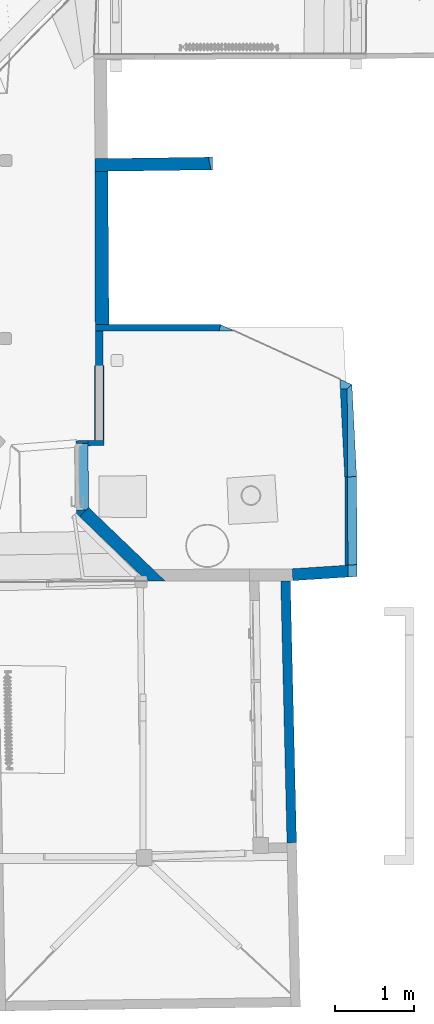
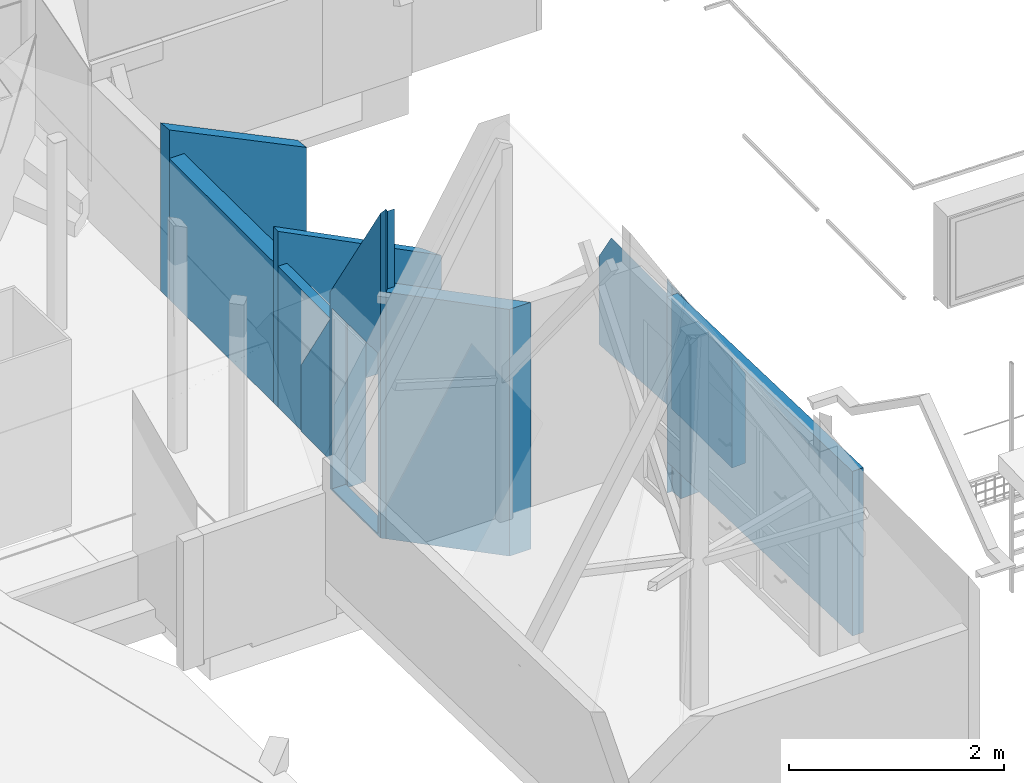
# One storey, part 11 of 39: 11 walls, 1 opening.
"""IFC2X3 building model written with IfcOpenShell, lengths in centimetres."""

from ifc_helpers import new_model, entity, si_unit, converted_unit, direction, frame, origin, origin_with_axes, origin_2d_with_axis, place, context, subcontext, project, spatial, polyline, rectangle, outline, extrude, clip, bounded_halfspace, shape, material, layer, layer_set, layer_usage, type_object, element, save


model = new_model("IFC2X3")

# Units and contexts
model_context = context("Model", 3, precision=0.0001, world=origin(), true_north=direction((0.225632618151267, 0.974212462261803, 0.0)))
body_context = subcontext(model_context, "Body", "Model", "MODEL_VIEW")
footprint_context = subcontext(model_context, "FootPrint", "Model", "MODEL_VIEW")
profile_context = subcontext(model_context, "Profile", "Model", "MODEL_VIEW")
ifc_project = project(units=[si_unit("LENGTHUNIT", "METRE", prefix="CENTI"), si_unit("AREAUNIT", "SQUARE_METRE", prefix="CENTI"), si_unit("VOLUMEUNIT", "CUBIC_METRE", prefix="CENTI"), converted_unit("PLANEANGLEUNIT", "DEGREE", entity("IfcRatioMeasure", 0.0174532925), si_unit("PLANEANGLEUNIT", "RADIAN"), dimensions=[0, 0, 0, 0, 0, 0, 0])], contexts=[model_context])

# Site, building, storey
site_placement = place(None, origin_with_axes())
site = spatial("IfcSite", under=ifc_project, at=site_placement, Name="Default Site", CompositionType="ELEMENT")
building_placement = place(site_placement, origin_with_axes())
building = spatial("IfcBuilding", under=site, at=building_placement, Name="Default Building", CompositionType="ELEMENT")
storey_placement = place(building_placement, frame((0.0, 0.0, 1088.91037418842), z_axis=(0.0, 0.0, 1.0), x_axis=(1.0, 0.0, 0.0)))
storey = spatial("IfcBuildingStorey", under=building, at=storey_placement, Name="Mezzanine", CompositionType="ELEMENT", Elevation=1088.91037418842)

# Wall, opening
ifc_material = material(Name="<aucun>")
ifc_layer_1 = layer(ifc_material, 15.0)
ifc_layer_set_1 = layer_set([ifc_layer_1], Name="default")
ifc_layer_usage_1 = layer_usage(ifc_layer_set_1, "AXIS2", "POSITIVE", -7.5)
wall_type_1 = type_object("IfcWallType", Name="default 150", PredefinedType="NOTDEFINED", material=ifc_layer_set_1)
wall_1_placement = place(storey_placement, frame((490.947921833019, -267.45127101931, 1.4210854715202e-12), z_axis=(0.0, 0.0, 1.0), x_axis=(-0.00747819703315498, 0.999972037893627, 0.0)))
wall_1 = element("IfcWallStandardCase", 1, at=wall_1_placement, inside=storey, type_object=wall_type_1, material=ifc_layer_usage_1, Name="Enveloppe 196749", context=body_context, shape_type="Clipping", body=[
    clip(clip(clip(clip(clip(clip(extrude(outline(polyline([(92.1734913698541, 7.50000000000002), (-0.000856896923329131, 7.50000000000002), (-3.73848226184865, 3.6603239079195), (0.0, 0.0212028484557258), (8.88178419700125e-14, -7.49999999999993), (92.2276193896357, -7.49999999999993), (92.1734913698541, 7.50000000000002)])), frame((0.0, 0.0, -1.77635683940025e-13), z_axis=(0.0, 0.0, 1.0), x_axis=(1.0, 0.0, 0.0)), (0.0, 0.0, 1.0), 373.935138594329), bounded_halfspace(frame((7.72655896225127, -7.50000000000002, 279.702416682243), z_axis=(0.0, 0.0, 1.0), x_axis=(-1.0, -2.18141477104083e-15, 0.0)), True, frame((7.72655896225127, -7.50000000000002, 279.702416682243), z_axis=(0.0, 0.0, 1.0), x_axis=(1.0, 0.0, 0.0)), polyline([(-7.72655896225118, 1.77635683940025e-13), (-7.72655896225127, 7.52120284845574), (0.0, 0.0), (-7.72655896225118, 1.77635683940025e-13)]))), bounded_halfspace(frame((-3.7384822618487, 3.6603239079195, 373.935138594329), z_axis=(-0.843224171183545, 0.00783678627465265, -0.537504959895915), x_axis=(0.473867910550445, -0.461273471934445, -0.750117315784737)), True, frame((-3.7384822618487, 3.6603239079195, 373.935138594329), z_axis=(0.0, 0.0, 1.0), x_axis=(1.0, 0.0, 0.0)), polyline([(4.44089209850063e-14, -8.88178419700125e-14), (3.7384822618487, -3.63912105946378), (3.73762536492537, 3.83967609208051), (4.44089209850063e-14, -8.88178419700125e-14)]))), bounded_halfspace(frame((85.7275770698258, 7.50000000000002, 233.639032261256), z_axis=(-0.843224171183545, 0.00783678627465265, -0.537504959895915), x_axis=(-0.53752146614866, -1.346145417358e-15, 0.843250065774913)), True, frame((85.7275770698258, 7.50000000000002, 233.639032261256), z_axis=(0.0, 0.0, 1.0), x_axis=(1.0, 0.0, 0.0)), polyline([(4.44089209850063e-14, -14.9999999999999), (6.5000423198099, -14.9999999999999), (6.44591430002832, 0.0), (4.44089209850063e-14, 0.0), (4.44089209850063e-14, -14.9999999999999)]))), bounded_halfspace(frame((-0.00085689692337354, 7.50000000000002, 368.12762878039), z_axis=(-0.843224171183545, 0.00783678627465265, -0.537504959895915), x_axis=(0.00608181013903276, 0.999968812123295, 0.00503848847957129)), True, frame((-0.00085689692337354, 7.50000000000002, 368.12762878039), z_axis=(0.0, 0.0, 1.0), x_axis=(1.0, 0.0, 0.0)), polyline([(0.00085689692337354, -7.47879715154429), (7.72741585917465, -15.0), (39.4986094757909, -14.9999999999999), (39.5898394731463, 8.88178419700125e-14), (4.44089209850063e-14, 0.0), (0.00085689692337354, -7.47879715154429)]))), bounded_halfspace(frame((39.5889825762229, 7.50000000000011, 306.020091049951), z_axis=(-0.843224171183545, 0.00783678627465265, -0.537504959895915), x_axis=(0.537521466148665, 5.14345510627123e-16, -0.84325006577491)), True, frame((39.5889825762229, 7.50000000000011, 306.020091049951), z_axis=(0.0, 0.0, 1.0), x_axis=(1.0, 0.0, 0.0)), polyline([(-0.0912299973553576, -14.9999999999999), (46.1385944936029, -15.0), (46.1385944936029, -8.88178419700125e-14), (4.44089209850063e-14, 0.0), (-0.0912299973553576, -14.9999999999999)]))), bounded_halfspace(frame((-4.44089209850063e-14, 0.0212028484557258, 368.01724414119), z_axis=(-0.843224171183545, 0.00783678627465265, -0.537504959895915), x_axis=(9.74220704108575e-15, -0.999893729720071, -0.0145783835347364)), True, frame((-4.44089209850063e-14, 0.0212028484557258, 368.01724414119), z_axis=(0.0, 0.0, 1.0), x_axis=(1.0, 0.0, 0.0)), polyline([(1.33226762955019e-13, -7.52120284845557), (7.72655896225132, -7.52120284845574), (4.44089209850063e-14, 0.0), (1.33226762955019e-13, -7.52120284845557)]))),
])
opening_placement = place(wall_1_placement, frame((4.67017109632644, -1.13686837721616e-13, 1.99999999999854), z_axis=(0.0, 0.0, 1.0), x_axis=(1.0, -1.8995222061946e-16, 0.0)))
cartesian_point_1 = entity("IfcCartesianPoint", [0.0, 8.88178419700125e-14, 204.70321560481])
cartesian_point_2 = entity("IfcCartesianPoint", [84.1512658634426, 7.50000000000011])
element("IfcOpeningElement", 2, at=opening_placement, cuts=wall_1, Name="4294966372_11", ObjectType="Opening", shapes=[
    shape(body_context, "Body", "SweptSolid", [extrude(outline(polyline([(4.44089209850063e-14, 204.70321560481), (4.44089209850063e-14, -1.77635683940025e-13), (84.1512658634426, -1.77635683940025e-13), (84.1512658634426, 204.70321560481), (4.44089209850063e-14, 204.70321560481)])), frame((0.0, 17.5, 0.0), z_axis=(0.0, -1.0, 0.0), x_axis=(1.0, 0.0, 0.0)), (0.0, 0.0, 1.0), 35.0)]),
    shape(profile_context, "Profile", "GeometricCurveSet", [entity("IfcGeometricCurveSet", [entity("IfcPolyline", [cartesian_point_1, entity("IfcCartesianPoint", [0.0, 8.88178419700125e-14, -1.77635683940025e-13]), entity("IfcCartesianPoint", [84.1512658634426, 8.88178419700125e-14, -1.77635683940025e-13]), entity("IfcCartesianPoint", [84.1512658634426, 8.88178419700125e-14, 204.70321560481]), cartesian_point_1])])]),
    shape(footprint_context, "FootPrint", "GeometricCurveSet", [entity("IfcGeometricCurveSet", [entity("IfcPolyline", [cartesian_point_2, entity("IfcCartesianPoint", [4.44089209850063e-14, 7.50000000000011]), entity("IfcCartesianPoint", [4.44089209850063e-14, -7.49999999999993]), entity("IfcCartesianPoint", [84.1512658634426, -7.49999999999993]), cartesian_point_2])])]),
])

# Walls
ifc_layer_2 = layer(ifc_material, 16.0)
ifc_layer_set_2 = layer_set([ifc_layer_2], Name="default")
ifc_layer_usage_2 = layer_usage(ifc_layer_set_2, "AXIS2", "POSITIVE", -8.0)
wall_type_2 = type_object("IfcWallType", Name="default 160", PredefinedType="NOTDEFINED", material=ifc_layer_set_2)
wall_2_placement = place(storey_placement, frame((572.508717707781, -341.829993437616, 1.4210854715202e-12), z_axis=(0.0, 0.0, 1.0), x_axis=(-0.721761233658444, 0.692142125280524, 0.0)))
element("IfcWallStandardCase", 3, at=wall_2_placement, inside=storey, type_object=wall_type_2, material=ifc_layer_usage_2, Name="Enveloppe 196802", context=body_context, shape_type="SweptSolid", body=[
    extrude(outline(polyline([(110.363260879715, 8.0000000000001), (-7.57052887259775, 7.99999999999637), (-24.1921807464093, -8.00000000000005), (110.363260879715, -7.99999999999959), (110.363260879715, 8.0000000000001)])), frame((0.0, 0.0, -8.88178419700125e-13), z_axis=(0.0, 0.0, 1.0), x_axis=(1.0, 0.0, 0.0)), (0.0, 0.0, 1.0), 279.702416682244),
])
ifc_layer_3 = layer(ifc_material, 12.0)
ifc_layer_set_3 = layer_set([ifc_layer_3], Name="default")
ifc_layer_usage_3 = layer_usage(ifc_layer_set_3, "AXIS2", "POSITIVE", -6.0)
wall_type_3 = type_object("IfcWallType", Name="default 120", PredefinedType="NOTDEFINED", material=ifc_layer_set_3)
wall_3_placement = place(storey_placement, frame((755.420033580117, -689.414235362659, 48.0000000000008), z_axis=(0.0, 0.0, 1.0), x_axis=(-0.0238008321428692, 0.999716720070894, 0.0)))
element("IfcWallStandardCase", 4, at=wall_3_placement, inside=storey, type_object=wall_type_3, material=ifc_layer_usage_3, Name="Enveloppe 195761", context=body_context, shape_type="Clipping", body=[
    clip(extrude(rectangle(XDim=12.0, YDim=331.128133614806, at=origin_2d_with_axis()), frame((171.564066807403, -8.88178419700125e-14, -5.32907051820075e-13), z_axis=(0.0, 0.0, 1.0), x_axis=(0.0, -1.0, 0.0)), (0.0, 0.0, 1.0), 186.702416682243), bounded_halfspace(frame((337.128133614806, -6.00000000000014, 185.371625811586), z_axis=(0.0, 0.0, 1.0), x_axis=(-1.0, 3.58834489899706e-13, 0.0)), True, frame((337.128133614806, -6.00000000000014, 185.371625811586), z_axis=(0.0, 0.0, 1.0), x_axis=(1.0, 0.0, 0.0)), polyline([(-0.110865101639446, -8.88178419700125e-14), (-0.110865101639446, 6.94119999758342), (4.44089209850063e-14, 12.0000000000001), (4.44089209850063e-14, 0.0), (-0.110865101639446, -8.88178419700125e-14)]))),
])
ifc_layer_usage_4 = layer_usage(ifc_layer_set_1, "AXIS2", "POSITIVE", -7.5)
wall_type_4 = type_object("IfcWallType", Name="default 150", PredefinedType="NOTDEFINED", material=ifc_layer_set_1)
wall_4_placement = place(storey_placement, frame((830.122629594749, -336.708752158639, 1.06581410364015e-12), z_axis=(0.0, 0.0, 1.0), x_axis=(-0.00268760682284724, 0.999996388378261, 0.0)))
element("IfcWallStandardCase", 5, at=wall_4_placement, inside=storey, type_object=wall_type_4, material=ifc_layer_usage_4, Name="Enveloppe 197291", context=body_context, shape_type="Clipping", body=[
    clip(clip(extrude(outline(polyline([(115.473482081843, 7.50000000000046), (3.91954015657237, 7.50000000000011), (4.85611666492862, -7.50000000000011), (114.566152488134, -7.49999999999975), (116.191257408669, -7.42182860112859), (115.473482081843, 7.50000000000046)])), frame((0.0, 0.0, -5.32907051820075e-13), z_axis=(0.0, 0.0, 1.0), x_axis=(1.0, 0.0, 0.0)), (0.0, 0.0, 1.0), 125.905672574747), bounded_halfspace(frame((3.91954015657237, 7.50000000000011, 125.905672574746), z_axis=(-0.000806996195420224, 0.850801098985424, -0.525487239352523), x_axis=(0.999997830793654, -0.000322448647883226, -0.00205777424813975)), True, frame((3.91954015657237, 7.50000000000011, 125.905672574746), z_axis=(0.0, 0.0, 1.0), x_axis=(1.0, 0.0, 0.0)), polyline([(0.0, 1.77635683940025e-13), (0.441870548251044, -7.07689992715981), (51.2322007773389, -7.09327723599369), (51.225204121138, -5.99999999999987), (111.823901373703, -5.61218596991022), (111.55394192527, 3.5527136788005e-13), (0.0, 1.77635683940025e-13)]))), bounded_halfspace(frame((115.743441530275, 1.88781403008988, 116.647416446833), z_axis=(-0.000806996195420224, 0.850801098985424, -0.525487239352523), x_axis=(-0.0252682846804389, 0.525302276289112, 0.850540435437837)), True, frame((115.743441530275, 1.88781403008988, 116.647416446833), z_axis=(0.0, 0.0, 1.0), x_axis=(1.0, 0.0, 0.0)), polyline([(-111.382030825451, -1.46471395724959), (-110.887324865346, -9.38781403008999), (-1.17728904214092, -9.38781403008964), (0.447815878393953, -9.30964263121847), (4.44089209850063e-14, 0.0), (-60.5986972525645, -0.38781403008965), (-60.5917005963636, -1.48109126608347), (-111.382030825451, -1.46471395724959)]))),
])
ifc_layer_usage_5 = layer_usage(ifc_layer_set_1, "AXIS2", "POSITIVE", -7.5)
wall_5_placement = place(storey_placement, frame((829.741812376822, -220.878451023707, 1.06581410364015e-12), z_axis=(0.0, 0.0, 1.0), x_axis=(-0.0507311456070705, 0.998712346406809, 0.0)))
element("IfcWallStandardCase", 6, at=wall_5_placement, inside=storey, type_object=wall_type_4, material=ifc_layer_usage_5, Name="Enveloppe 197311", context=body_context, shape_type="Clipping", body=[
    clip(clip(clip(clip(clip(clip(clip(extrude(outline(polyline([(123.99580404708, 7.49999999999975), (-1.26642461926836, 7.50000000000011), (-4.44089209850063e-14, 7.4390819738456), (-1.33226762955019e-13, -7.49999999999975), (116.193261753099, -7.50000000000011), (123.99580404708, 7.49999999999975)])), frame((0.0, 0.0, -3.5527136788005e-13), z_axis=(0.0, 0.0, 1.0), x_axis=(1.0, 0.0, 0.0)), (0.0, 0.0, 1.0), 133.666499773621), bounded_halfspace(frame((102.726219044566, 7.49999999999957, 133.666499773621), z_axis=(0.0400722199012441, 0.849857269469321, -0.525487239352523), x_axis=(0.999093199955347, -0.0416520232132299, 0.0088253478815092)), True, frame((102.726219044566, 7.49999999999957, 133.666499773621), z_axis=(0.0, 0.0, 1.0), x_axis=(1.0, 0.0, 0.0)), polyline([(-103.992643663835, 7.105427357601e-13), (-102.726219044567, -0.0609180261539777), (-102.726219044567, -5.67959308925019), (9.68396643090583, -10.3659543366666), (0.0, 0.0), (-103.992643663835, 7.105427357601e-13)]))), bounded_halfspace(frame((112.410179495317, -2.86595408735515, 117.64037580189), z_axis=(0.0400722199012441, 0.849857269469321, -0.525487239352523), x_axis=(-0.452467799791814, 0.484332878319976, 0.748795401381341)), True, frame((112.410179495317, -2.86595408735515, 117.64037580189), z_axis=(0.0, 0.0, 1.0), x_axis=(1.0, 0.0, 0.0)), polyline([(-112.410179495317, -4.6340459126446), (3.78308225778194, -4.63404591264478), (3.78308225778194, -4.0495061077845), (0.0, 0.0), (-112.410179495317, 4.68636099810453), (-112.410179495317, -4.6340459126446)]))), bounded_halfspace(frame((116.193261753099, 7.49999999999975, 112.567924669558), z_axis=(-0.842095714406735, 0.0443083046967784, -0.537504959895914), x_axis=(-7.0082828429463e-16, -0.996619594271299, -0.0821546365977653)), True, frame((116.193261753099, 7.49999999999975, 112.567924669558), z_axis=(0.0, 0.0, 1.0), x_axis=(1.0, 0.0, 0.0)), polyline([(2.22044604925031e-14, -10.5236701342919), (2.27902772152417, -10.6186824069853), (7.80254229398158, 0.0), (0.0, 0.0), (2.22044604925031e-14, -10.5236701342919)]))), bounded_halfspace(frame((116.193261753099, -3.02367013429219, 111.700423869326), z_axis=(-0.842095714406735, 0.0443083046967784, -0.537504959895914), x_axis=(5.50254286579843e-15, -0.9966195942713, -0.0821546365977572)), True, frame((116.193261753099, -3.02367013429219, 111.700423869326), z_axis=(0.0, 0.0, 1.0), x_axis=(1.0, 0.0, 0.0)), polyline([(2.22044604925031e-14, -3.89178401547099), (0.195312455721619, -4.10085137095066), (2.27902772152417, -0.0950122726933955), (2.22044604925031e-14, 0.0), (2.22044604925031e-14, -3.89178401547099)]))), bounded_halfspace(frame((102.726219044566, 7.49999999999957, 133.666407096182), z_axis=(-0.842095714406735, 0.0443083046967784, -0.537504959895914), x_axis=(-0.538033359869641, -6.93889390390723e-16, 0.842923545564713)), True, frame((102.726219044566, 7.49999999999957, 133.666407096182), z_axis=(0.0, 0.0, 1.0), x_axis=(1.0, 0.0, 0.0)), polyline([(0.0, 0.0), (9.68396643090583, -10.3659543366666), (13.4670427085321, -10.5236701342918), (13.467042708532, 1.77635683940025e-13), (0.0, 0.0)]))), bounded_halfspace(frame((112.410179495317, -2.86595408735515, 117.640286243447), z_axis=(-0.842095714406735, 0.0443083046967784, -0.537504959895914), x_axis=(0.452467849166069, -0.484332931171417, -0.748795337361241)), True, frame((112.410179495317, -2.86595408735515, 117.640286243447), z_axis=(0.0, 0.0, 1.0), x_axis=(1.0, 0.0, 0.0)), polyline([(0.0, 0.0), (3.78308225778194, -4.0495061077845), (3.78308225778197, -0.15771604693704), (0.0, 0.0)]))), bounded_halfspace(frame((116.193261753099, -6.91545414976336, 111.379708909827), z_axis=(0.0400722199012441, 0.849857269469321, -0.525487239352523), x_axis=(-0.452467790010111, 0.484332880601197, 0.748795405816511)), True, frame((116.193261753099, -6.91545414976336, 111.379708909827), z_axis=(0.0, 0.0, 1.0), x_axis=(1.0, 0.0, 0.0)), polyline([(0.0, -0.584545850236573), (0.195312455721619, -0.209067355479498), (2.22044604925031e-14, 1.77635683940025e-13), (0.0, -0.584545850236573)]))),
])
ifc_layer_usage_6 = layer_usage(ifc_layer_set_1, "AXIS2", "POSITIVE", -7.5)
wall_6_placement = place(storey_placement, frame((756.279539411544, -344.645981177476, 1.06581410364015e-12), z_axis=(0.0, 0.0, 1.0), x_axis=(0.997885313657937, 0.0649992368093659, 0.0)))
element("IfcWallStandardCase", 7, at=wall_6_placement, inside=storey, type_object=wall_type_4, material=ifc_layer_usage_6, Name="Enveloppe 197272", context=body_context, shape_type="Clipping", body=[
    clip(clip(clip(extrude(outline(polyline([(-5.31304336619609, 7.50000000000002), (8.88178419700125e-14, 7.16401430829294), (0.0, -7.49999999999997), (81.0543145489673, -7.49999999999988), (81.9908910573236, 7.50000000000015), (-5.31304336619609, 7.50000000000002)])), frame((0.0, 0.0, 3.5527136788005e-13), z_axis=(0.0, 0.0, 1.0), x_axis=(1.0, 0.0, 0.0)), (0.0, 0.0, 1.0), 242.703055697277), bounded_halfspace(frame((-5.31304336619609, 7.50000000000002, 242.703055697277), z_axis=(-0.849197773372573, 0.0522140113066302, -0.525487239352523), x_axis=(7.45237205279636e-15, -0.995099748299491, -0.0988761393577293)), True, frame((-5.31304336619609, 7.50000000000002, 242.703055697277), z_axis=(0.0, 0.0, 1.0), x_axis=(1.0, 0.0, 0.0)), polyline([(8.88178419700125e-14, 0.0), (5.31304336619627, -0.335985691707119), (5.31304336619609, -15.0), (72.2747236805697, -14.9999999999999), (72.2747236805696, 8.88178419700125e-14), (8.88178419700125e-14, 0.0)]))), bounded_halfspace(frame((73.1109294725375, -7.4999999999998, 114.477918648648), z_axis=(-0.849197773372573, 0.0522140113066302, -0.525487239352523), x_axis=(-0.526205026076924, -4.3229309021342e-15, 0.850357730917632)), True, frame((73.1109294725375, -7.4999999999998, 114.477918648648), z_axis=(0.0, 0.0, 1.0), x_axis=(1.0, 0.0, 0.0)), polyline([(1.77635683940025e-13, 0.0), (7.9433850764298, -8.88178419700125e-14), (8.87996158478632, 15.0), (0.941432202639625, 14.9999999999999), (1.77635683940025e-13, 0.0)]))), bounded_halfspace(frame((66.9616803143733, 7.50000000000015, 125.905672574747), z_axis=(-0.849197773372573, 0.0522140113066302, -0.525487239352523), x_axis=(-0.526205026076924, 6.46011022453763e-15, 0.850357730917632)), True, frame((66.9616803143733, 7.50000000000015, 125.905672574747), z_axis=(0.0, 0.0, 1.0), x_axis=(1.0, 0.0, 0.0)), polyline([(2.66453525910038e-13, -15.0), (6.14924915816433, -14.9999999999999), (7.09068136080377, -8.88178419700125e-14), (1.77635683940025e-13, -4.44089209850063e-14), (2.66453525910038e-13, -15.0)]))),
])
ifc_layer_4 = layer(ifc_material, 6.5)
ifc_layer_set_4 = layer_set([ifc_layer_4], Name="default")
ifc_layer_usage_7 = layer_usage(ifc_layer_set_4, "AXIS2", "POSITIVE", -3.25)
wall_type_5 = type_object("IfcWallType", Name="default 65", PredefinedType="NOTDEFINED", material=ifc_layer_set_4)
wall_7_placement = place(storey_placement, frame((497.781756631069, -178.42008056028, 3.73034936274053e-12), z_axis=(0.0, 0.0, 1.0), x_axis=(0.999938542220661, 0.0110865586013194, 0.0)))
element("IfcWallStandardCase", 8, at=wall_7_placement, inside=storey, type_object=wall_type_5, material=ifc_layer_usage_7, Name="Enveloppe 197791", context=body_context, shape_type="Clipping", body=[
    clip(clip(clip(clip(clip(clip(clip(extrude(outline(polyline([(0.0122912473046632, 3.25000000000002), (-0.0111642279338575, -3.25), (20.2555861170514, -3.24999999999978), (20.2555861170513, 3.25000000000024), (20.0981492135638, 3.25000000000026), (21.470251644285, 97.7041973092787), (20.2256865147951, 97.7222766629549), (19.2291032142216, 3.25000000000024), (9.22854682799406, 3.25000000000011), (10.226662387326, 97.8675289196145), (9.47151758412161, 97.8784986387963), (8.09688314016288, 3.25000000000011), (0.0122912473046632, 3.25000000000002)])), frame((0.0, 0.0, -3.5527136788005e-13), z_axis=(0.0, 0.0, 1.0), x_axis=(1.0, 0.0, 0.0)), (0.0, 0.0, 1.0), 233.420333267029), bounded_halfspace(frame((20.2555861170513, 3.25000000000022, 159.70241668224), z_axis=(0.0, 0.0, 1.0), x_axis=(1.73472347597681e-18, -1.0, 0.0)), True, frame((20.2555861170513, 3.25000000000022, 159.70241668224), z_axis=(0.0, 0.0, 1.0), x_axis=(1.0, 0.0, 0.0)), polyline([(-0.251860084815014, -6.50000000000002), (-0.157436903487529, 2.22044604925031e-14), (-8.88178419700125e-14, 0.0), (8.88178419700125e-14, -6.50000000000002), (-0.251860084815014, -6.50000000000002)]))), bounded_halfspace(frame((-0.0111642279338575, -3.25000000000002, 233.420333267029), z_axis=(-0.0108795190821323, -0.843190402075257, -0.537504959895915), x_axis=(-0.00193965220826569, -0.537517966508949, 0.843250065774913)), True, frame((-0.0111642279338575, -3.25000000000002, 233.420333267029), z_axis=(0.0, 0.0, 1.0), x_axis=(1.0, 0.0, 0.0)), polyline([(0.0, -2.22044604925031e-14), (20.0148902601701, 2.22044604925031e-13), (20.1093134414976, 6.50000000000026), (0.0234554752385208, 6.49999999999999), (0.0, -2.22044604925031e-14)]))), bounded_halfspace(frame((19.6312225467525, 41.3693712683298, 163.027819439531), z_axis=(-0.0108795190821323, -0.843190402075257, -0.537504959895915), x_axis=(0.866941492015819, 0.259911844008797, -0.425274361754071)), True, frame((19.6312225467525, 41.3693712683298, 163.027819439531), z_axis=(0.0, 0.0, 1.0), x_axis=(1.0, 0.0, 0.0)), polyline([(8.88178419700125e-14, 0.0), (1.02513778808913, 0.307339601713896), (1.8390290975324, 56.3348260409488), (0.594463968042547, 56.3529053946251), (8.88178419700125e-14, 0.0)]))), bounded_halfspace(frame((8.60259850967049, 38.0629543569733, 168.43786278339), z_axis=(-0.0108795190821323, -0.843190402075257, -0.537504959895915), x_axis=(-0.00780732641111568, -0.53744875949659, 0.843260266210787)), True, frame((8.60259850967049, 38.0629543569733, 168.43786278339), z_axis=(0.0, 0.0, 1.0), x_axis=(1.0, 0.0, 0.0)), polyline([(8.88178419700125e-14, 0.0), (0.996339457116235, 0.298705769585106), (1.6240638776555, 59.8045745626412), (0.868919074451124, 59.815544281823), (8.88178419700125e-14, 0.0)]))), bounded_halfspace(frame((19.2291032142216, 3.25000000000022, 222.834268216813), z_axis=(-0.0108795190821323, -0.843190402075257, -0.537504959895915), x_axis=(0.00780732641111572, 0.537448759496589, -0.843260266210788)), True, frame((19.2291032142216, 3.25000000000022, 222.834268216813), z_axis=(0.0, 0.0, 1.0), x_axis=(1.0, 0.0, 0.0)), polyline([(0.0, 0.0), (0.869045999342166, 2.22044604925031e-14), (1.42725712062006, 38.4267108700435), (0.402119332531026, 38.1193712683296), (0.0, 0.0)]))), bounded_halfspace(frame((8.09688314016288, 3.25000000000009, 223.059593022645), z_axis=(-0.0108795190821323, -0.843190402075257, -0.537504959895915), x_axis=(0.00566980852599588, 0.537476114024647, -0.843259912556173)), True, frame((8.09688314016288, 3.25000000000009, 223.059593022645), z_axis=(0.0, 0.0, 1.0), x_axis=(1.0, 0.0, 0.0)), polyline([(0.0, -2.22044604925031e-14), (1.13166368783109, 0.0), (1.50205482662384, 35.1116601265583), (0.505715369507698, 34.8129543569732), (0.0, -2.22044604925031e-14)]))), bounded_halfspace(frame((20.0037260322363, -3.2499999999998, 233.015216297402), z_axis=(-0.0108795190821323, -0.843190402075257, -0.537504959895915), x_axis=(-0.00780732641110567, -0.537448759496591, 0.843260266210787)), True, frame((20.0037260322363, -3.2499999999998, 233.015216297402), z_axis=(0.0, 0.0, 1.0), x_axis=(1.0, 0.0, 0.0)), polyline([(0.0, 0.0), (0.251860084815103, 0.0), (0.251860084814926, 6.50000000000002), (0.0944231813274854, 6.50000000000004), (0.0, 0.0)]))),
])
ifc_layer_5 = layer(ifc_material, 10.0)
ifc_layer_set_5 = layer_set([ifc_layer_5], Name="default")
ifc_layer_usage_8 = layer_usage(ifc_layer_set_5, "AXIS2", "POSITIVE", -5.0)
wall_type_6 = type_object("IfcWallType", Name="default 100", PredefinedType="NOTDEFINED", material=ifc_layer_set_5)
wall_8_placement = place(storey_placement, frame((511.922775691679, -80.4424967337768, 3.73034936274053e-12), z_axis=(0.0, 0.0, 1.0), x_axis=(-0.000538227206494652, 0.999999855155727, 0.0)))
element("IfcWallStandardCase", 9, at=wall_8_placement, inside=storey, type_object=wall_type_6, material=ifc_layer_usage_8, Name="Enveloppe 194511", context=body_context, shape_type="SweptSolid", body=[
    extrude(outline(polyline([(44.0034220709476, 5.00000000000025), (-94.6227933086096, 4.99999999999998), (-94.5173038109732, -5.00000000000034), (44.0070333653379, -5.00000000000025), (44.0034220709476, 5.00000000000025)])), frame((0.0, 0.0, -3.5527136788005e-13), z_axis=(0.0, 0.0, 1.0), x_axis=(1.0, 0.0, 0.0)), (0.0, 0.0, 1.0), 159.702416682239),
])
ifc_layer_6 = layer(ifc_material, 8.0)
ifc_layer_set_6 = layer_set([ifc_layer_6], Name="default")
ifc_layer_usage_9 = layer_usage(ifc_layer_set_6, "AXIS2", "POSITIVE", -4.0)
wall_type_7 = type_object("IfcWallType", Name="default 80", PredefinedType="NOTDEFINED", material=ifc_layer_set_6)
wall_9_placement = place(storey_placement, frame((522.898378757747, -32.4273814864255, 3.73034936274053e-12), z_axis=(0.0, 0.0, 1.0), x_axis=(0.99999959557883, 0.000899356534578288, 0.0)))
element("IfcWallStandardCase", 10, at=wall_9_placement, inside=storey, type_object=wall_type_7, material=ifc_layer_usage_9, Name="Enveloppe 194677", context=body_context, shape_type="Clipping", body=[
    clip(clip(clip(extrude(outline(polyline([(-16.0028900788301, -4.00000000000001), (159.36116802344, -3.99999999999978), (141.908320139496, 4.00000000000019), (-16.0000010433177, 3.99999999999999), (-16.0028900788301, -4.00000000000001)])), frame((0.0, 0.0, -3.01980662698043e-12), z_axis=(0.0, 0.0, 1.0), x_axis=(1.0, 0.0, 0.0)), (0.0, 0.0, 1.0), 200.198706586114), bounded_halfspace(frame((-16.0000010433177, 3.99999999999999, 200.198706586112), z_axis=(-0.449206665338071, 0.0919792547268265, -0.88868058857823), x_axis=(0.892463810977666, 8.25945214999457e-16, -0.451118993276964)), True, frame((-16.0000010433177, 3.99999999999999, 200.198706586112), z_axis=(0.0, 0.0, 1.0), x_axis=(1.0, 0.0, 0.0)), polyline([(-0.00288903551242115, -8.0), (16.0000010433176, -7.99999999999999), (16.0000010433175, 5.55111512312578e-15), (0.0, 5.55111512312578e-15), (-0.00288903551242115, -8.0)]))), bounded_halfspace(frame((141.908320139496, 4.00000000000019, 120.379847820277), z_axis=(-0.449206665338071, 0.0919792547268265, -0.88868058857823), x_axis=(1.10444422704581e-14, -0.994686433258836, -0.102950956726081)), True, frame((141.908320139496, 4.00000000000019, 120.379847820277), z_axis=(0.0, 0.0, 1.0), x_axis=(1.0, 0.0, 0.0)), polyline([(0.0, -8.00000000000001), (17.4528478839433, -7.99999999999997), (0.0, 0.0), (0.0, -8.00000000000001)]))), bounded_halfspace(frame((-8.88178419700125e-14, 4.0, 192.111090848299), z_axis=(-0.449206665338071, 0.0919792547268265, -0.88868058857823), x_axis=(1.10433580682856e-14, -0.994686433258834, -0.102950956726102)), True, frame((-8.88178419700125e-14, 4.0, 192.111090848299), z_axis=(0.0, 0.0, 1.0), x_axis=(1.0, 0.0, 0.0)), polyline([(0.0, -8.0), (141.908320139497, -7.99999999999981), (141.908320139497, 1.94289029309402e-13), (-8.88178419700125e-14, -5.55111512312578e-15), (0.0, -8.0)]))),
])
ifc_layer_usage_10 = layer_usage(ifc_layer_set_2, "AXIS2", "POSITIVE", -8.0)
wall_type_8 = type_object("IfcWallType", Name="default 160", PredefinedType="NOTDEFINED", material=ifc_layer_set_2)
wall_10_placement = place(storey_placement, frame((514.899839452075, -37.8272767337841, 1.06581410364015e-12), z_axis=(0.0, 0.0, 1.0), x_axis=(-0.000538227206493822, 0.999999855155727, 0.0)))
element("IfcWallStandardCase", 11, at=wall_10_placement, inside=storey, type_object=wall_type_8, material=ifc_layer_usage_10, Name="Enveloppe 194053", context=body_context, shape_type="SweptSolid", body=[
    extrude(outline(polyline([(202.943125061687, 8.0000000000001), (9.38981124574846, 8.00026727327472), (9.39605609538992, -9.29295044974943), (203.15493549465, -8.05014265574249), (202.943125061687, 8.0000000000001)])), frame((0.0, 0.0, -3.5527136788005e-13), z_axis=(0.0, 0.0, 1.0), x_axis=(1.0, 0.0, 0.0)), (0.0, 0.0, 1.0), 159.702416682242),
])
ifc_layer_usage_11 = layer_usage(ifc_layer_set_2, "AXIS2", "POSITIVE", -8.0)
wall_11_placement = place(storey_placement, frame((522.758911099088, 173.331594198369, 1.06581410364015e-12), z_axis=(0.0, 0.0, 1.0), x_axis=(0.999905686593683, 0.0137338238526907, 0.0)))
element("IfcWallStandardCase", 12, at=wall_11_placement, inside=storey, type_object=wall_type_8, material=ifc_layer_usage_11, Name="Enveloppe 194000", context=body_context, shape_type="Clipping", body=[
    clip(clip(clip(clip(extrude(outline(polyline([(-15.9452787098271, 8.00000000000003), (-15.9737358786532, 0.0285589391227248), (-16.0800388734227, -7.99999516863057), (132.401998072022, -8.00000000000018), (132.401998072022, 7.99999999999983), (-15.9452787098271, 8.00000000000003)])), origin_with_axes(), (0.0, 0.0, 1.0), 192.146423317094), bounded_halfspace(frame((-16.071062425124, -7.34645528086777, 192.084844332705), z_axis=(-0.440074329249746, -0.0784773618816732, -0.89452551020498), x_axis=(-0.0131374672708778, -0.995504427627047, 0.0937994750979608)), True, frame((-16.071062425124, -7.34645528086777, 192.084844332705), z_axis=(0.0, 0.0, 1.0), x_axis=(1.0, 0.0, 0.0)), polyline([(0.0, 2.22044604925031e-14), (16.071062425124, -0.0106679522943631), (16.0710624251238, 15.3464552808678), (0.125783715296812, 15.3464552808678), (0.0973265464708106, 7.37501421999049), (0.0, 2.22044604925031e-14)]))), bounded_halfspace(frame((-8.88178419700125e-14, -7.99999999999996, 184.235796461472), z_axis=(-0.440074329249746, -0.0784773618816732, -0.89452551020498), x_axis=(-0.897313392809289, 0.000595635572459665, 0.441393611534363)), True, frame((-8.88178419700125e-14, -7.99999999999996, 184.235796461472), z_axis=(0.0, 0.0, 1.0), x_axis=(1.0, 0.0, 0.0)), polyline([(-8.88178419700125e-14, 2.22044604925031e-14), (132.401998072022, -2.22044604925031e-13), (132.401998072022, 0.554988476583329), (8.88178419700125e-14, 0.64287676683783), (-8.88178419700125e-14, 2.22044604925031e-14)]))), bounded_halfspace(frame((0.0, -7.35712323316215, 184.179396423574), z_axis=(-0.440074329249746, -0.0784773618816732, -0.89452551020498), x_axis=(-0.897292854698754, 1.19002030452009e-15, 0.441435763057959)), True, frame((0.0, -7.35712323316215, 184.179396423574), z_axis=(0.0, 0.0, 1.0), x_axis=(1.0, 0.0, 0.0)), polyline([(0.0, 2.22044604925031e-14), (132.401998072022, -0.0878882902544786), (132.401998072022, 15.357123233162), (-1.77635683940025e-13, 15.3571232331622), (0.0, 2.22044604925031e-14)]))), bounded_halfspace(frame((-16.0796871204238, -7.99999999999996, 192.146423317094), z_axis=(-0.440074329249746, -0.0784773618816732, -0.89452551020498), x_axis=(3.60596968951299e-14, 0.996173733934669, -0.087395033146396)), True, frame((-16.0796871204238, -7.99999999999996, 192.146423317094), z_axis=(0.0, 0.0, 1.0), x_axis=(1.0, 0.0, 0.0)), polyline([(-8.88178419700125e-14, 0.0), (16.0796871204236, 2.22044604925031e-14), (16.0796871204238, 0.64287676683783), (0.00862469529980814, 0.653544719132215), (-8.88178419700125e-14, 0.0)]))),
])

save(model, "model.ifc")
